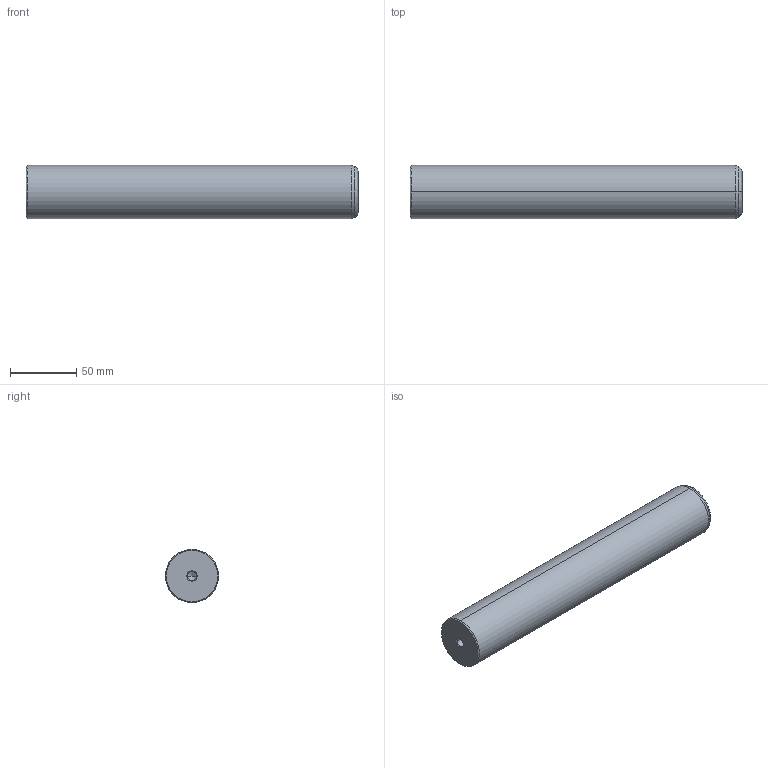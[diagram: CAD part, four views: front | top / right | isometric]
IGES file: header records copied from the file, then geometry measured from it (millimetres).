
Start section: START RECORD GO HERE.
Global section: file name: 720-40x250.igs; native system: DASSAULT SYSTEMES CATIA V5 R20 - www.3ds.com; preprocessor: CATIA Version 5 Release 20 ; author: Utente; organization: NB04-ASUS; date: 20201230.225844; units: millimetre
Bounding box: 250 x 40 x 40 mm (x, y, z)
Surface area: 34600.1 mm2 (no closed solid volume)
Topology: 0 solids, 0 shells, 22 faces, 108 edges, 104 vertices
Faces by surface type: revolution 20, plane 2
